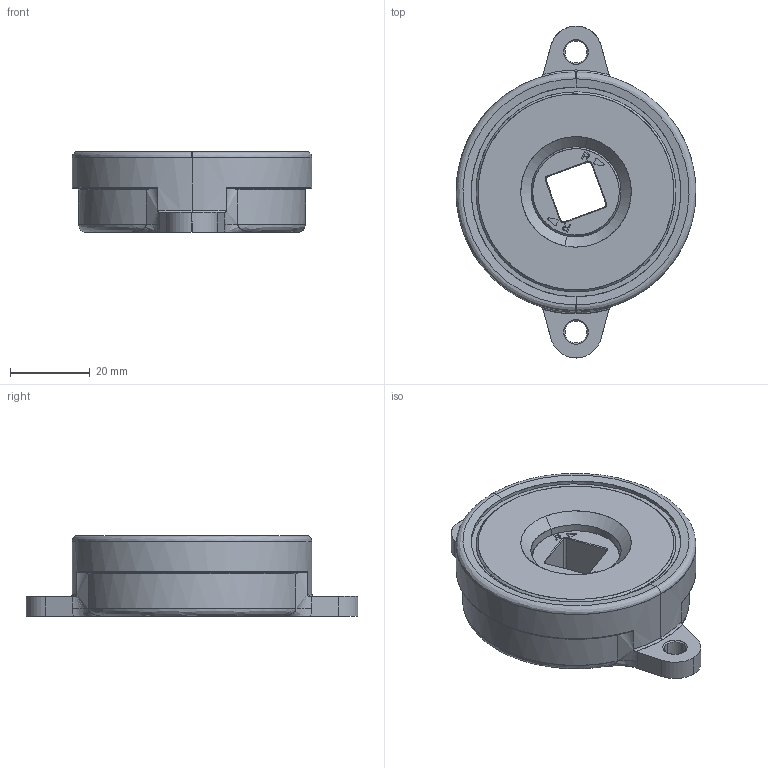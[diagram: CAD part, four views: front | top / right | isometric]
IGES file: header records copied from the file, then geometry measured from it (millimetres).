
Start section: SolidWorks IGES file using NURBS representation for surfaces
Global section: file name: V:\TempData\CAD仮置き用\20150604_不二ラテックス_酒巻様\FYN-S1-R104.IGS,15HSolidWorks; native system: 2012; preprocessor: SolidWorks 2012; author: 56050; date: 150605.140011; units: millimetre
Bounding box: 60 x 83 x 20.24 mm (x, y, z)
Surface area: 11579.5 mm2 (no closed solid volume)
Topology: 0 solids, 0 shells, 139 faces, 1763 edges, 1757 vertices
Faces by surface type: bspline 139
